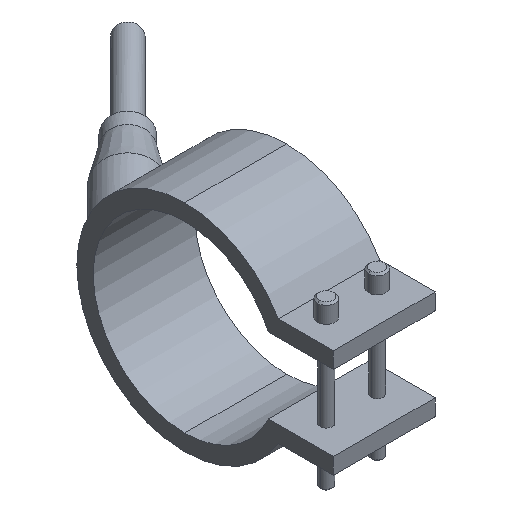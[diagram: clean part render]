
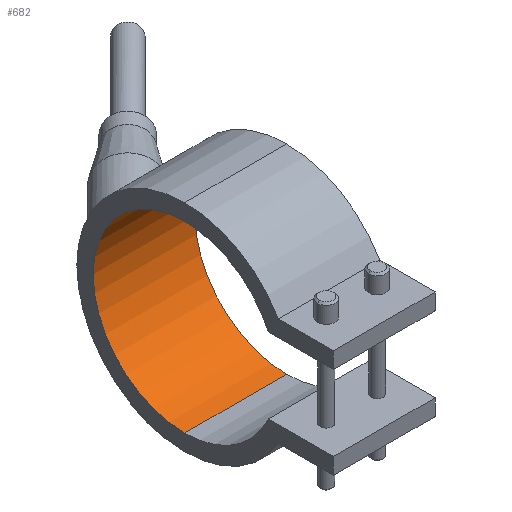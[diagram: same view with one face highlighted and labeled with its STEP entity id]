
A CAD part, isometric view. The second image highlights one B-rep face of the part: STEP entity #682.
In plain terms, the highlighted cylindrical face has radius 22.5 mm (diameter 45 mm), a partial arc.
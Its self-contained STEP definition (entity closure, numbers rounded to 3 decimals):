
#352=CARTESIAN_POINT('Vertex',(12.5,0.,22.5)) ;
#357=CARTESIAN_POINT('Axis2P3D Location',(12.5,0.,0.)) ;
#361=CARTESIAN_POINT('Vertex',(12.5,0.,-22.5)) ;
#468=CARTESIAN_POINT('Vertex',(-12.5,0.,-22.5)) ;
#471=CARTESIAN_POINT('Axis2P3D Location',(-12.5,0.,0.)) ;
#475=CARTESIAN_POINT('Vertex',(-12.5,0.,22.5)) ;
#654=CARTESIAN_POINT('Line Origine',(12.5,0.,22.5)) ;
#666=CARTESIAN_POINT('Axis2P3D Location',(12.5,0.,0.)) ;
#671=CARTESIAN_POINT('Line Origine',(12.5,0.,-22.5)) ;
#358=DIRECTION('Axis2P3D Direction',(1.,0.,0.)) ;
#472=DIRECTION('Axis2P3D Direction',(1.,0.,0.)) ;
#655=DIRECTION('Vector Direction',(1.,0.,0.)) ;
#667=DIRECTION('Axis2P3D Direction',(1.,0.,-0.)) ;
#668=DIRECTION('Axis2P3D XDirection',(0.,0.,-1.)) ;
#672=DIRECTION('Vector Direction',(1.,0.,0.)) ;
#359=AXIS2_PLACEMENT_3D('Circle Axis2P3D',#357,#358,$) ;
#473=AXIS2_PLACEMENT_3D('Circle Axis2P3D',#471,#472,$) ;
#669=AXIS2_PLACEMENT_3D('Cylinder Axis2P3D',#666,#667,#668) ;
#677=ORIENTED_EDGE('',*,*,#363,.T.) ;
#678=ORIENTED_EDGE('',*,*,#658,.T.) ;
#679=ORIENTED_EDGE('',*,*,#477,.F.) ;
#680=ORIENTED_EDGE('',*,*,#675,.T.) ;
#656=VECTOR('Line Direction',#655,1.) ;
#673=VECTOR('Line Direction',#672,1.) ;
#682=ADVANCED_FACE('29045025',(#681),#670,.F.) ;
#360=CIRCLE('generated circle',#359,22.5) ;
#474=CIRCLE('generated circle',#473,22.5) ;
#670=CYLINDRICAL_SURFACE('generated cylinder',#669,22.5) ;
#363=EDGE_CURVE('',#362,#353,#360,.T.) ;
#477=EDGE_CURVE('',#469,#476,#474,.T.) ;
#658=EDGE_CURVE('',#353,#476,#657,.F.) ;
#675=EDGE_CURVE('',#469,#362,#674,.T.) ;
#676=EDGE_LOOP('',(#677,#678,#679,#680)) ;
#681=FACE_OUTER_BOUND('',#676,.T.) ;
#657=LINE('Line',#654,#656) ;
#674=LINE('Line',#671,#673) ;
#353=VERTEX_POINT('',#352) ;
#362=VERTEX_POINT('',#361) ;
#469=VERTEX_POINT('',#468) ;
#476=VERTEX_POINT('',#475) ;
